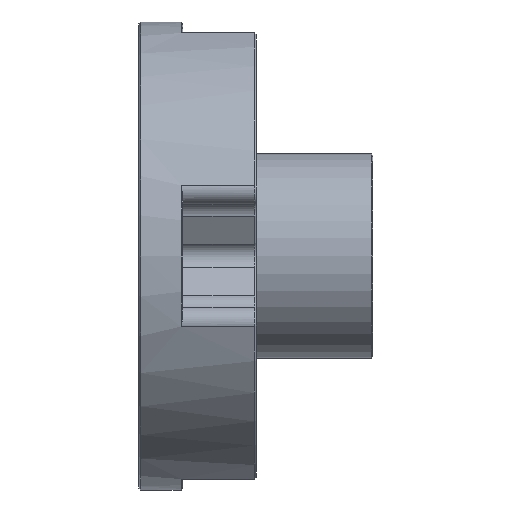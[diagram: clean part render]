
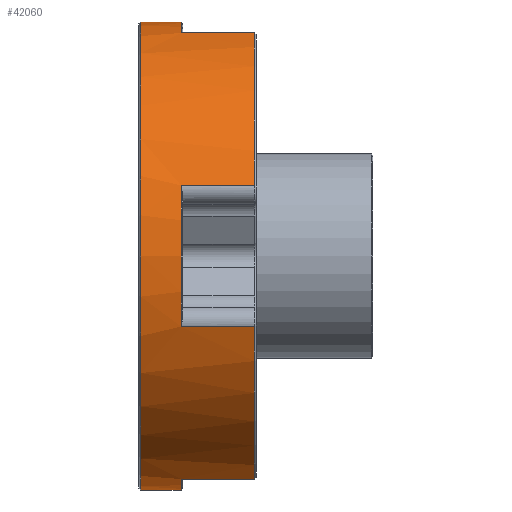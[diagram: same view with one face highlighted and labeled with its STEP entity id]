
A CAD part, left-side view. The second image highlights one B-rep face of the part: STEP entity #42060.
In plain terms, the highlighted cylindrical face has radius 16 mm (diameter 32 mm), a partial arc.
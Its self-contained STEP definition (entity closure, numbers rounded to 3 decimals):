
#930 = VECTOR ( 'NONE', #20826, 1000. ) ;
#1009 = DIRECTION ( 'NONE',  ( 0., -1., 0. ) ) ;
#1766 = DIRECTION ( 'NONE',  ( 0., -1., 0. ) ) ;
#1793 = EDGE_CURVE ( 'NONE', #15238, #35212, #44375, .T. ) ;
#3081 = DIRECTION ( 'NONE',  ( 0., -1., 0. ) ) ;
#4927 = VERTEX_POINT ( 'NONE', #35530 ) ;
#6414 = CARTESIAN_POINT ( 'NONE',  ( -15.255, 20.99, 4.827 ) ) ;
#7354 = CARTESIAN_POINT ( 'NONE',  ( 0., 8., -16. ) ) ;
#7944 = VERTEX_POINT ( 'NONE', #74116 ) ;
#8100 = DIRECTION ( 'NONE',  ( 0., 0., 1. ) ) ;
#9535 = ORIENTED_EDGE ( 'NONE', *, *, #47835, .T. ) ;
#10298 = DIRECTION ( 'NONE',  ( 0., 1., 0. ) ) ;
#10840 = CARTESIAN_POINT ( 'NONE',  ( 0., 7.875, 16. ) ) ;
#10989 = CIRCLE ( 'NONE', #52570, 16. ) ;
#11413 = VERTEX_POINT ( 'NONE', #31182 ) ;
#12600 = EDGE_LOOP ( 'NONE', ( #60551, #36033, #68315, #21662, #22065, #19429, #54100, #65936, #9535, #31345, #45018, #24198 ) ) ;
#13074 = LINE ( 'NONE', #73501, #48318 ) ;
#13438 = EDGE_CURVE ( 'NONE', #69668, #40917, #33314, .T. ) ;
#13907 = EDGE_CURVE ( 'NONE', #20694, #40917, #66782, .T. ) ;
#14190 = CARTESIAN_POINT ( 'NONE',  ( 0., 5.125, 0. ) ) ;
#14689 = DIRECTION ( 'NONE',  ( 0., 1., 0. ) ) ;
#15238 = VERTEX_POINT ( 'NONE', #10840 ) ;
#16117 = VECTOR ( 'NONE', #1766, 1000. ) ;
#19429 = ORIENTED_EDGE ( 'NONE', *, *, #13438, .T. ) ;
#20501 = CARTESIAN_POINT ( 'NONE',  ( -4.827, 20.99, -15.255 ) ) ;
#20694 = VERTEX_POINT ( 'NONE', #62058 ) ;
#20826 = DIRECTION ( 'NONE',  ( 0., -1., 0. ) ) ;
#21430 = VERTEX_POINT ( 'NONE', #57492 ) ;
#21662 = ORIENTED_EDGE ( 'NONE', *, *, #53638, .T. ) ;
#22065 = ORIENTED_EDGE ( 'NONE', *, *, #25766, .T. ) ;
#22157 = CARTESIAN_POINT ( 'NONE',  ( 0., 5.125, 0. ) ) ;
#24198 = ORIENTED_EDGE ( 'NONE', *, *, #59237, .T. ) ;
#24810 = CIRCLE ( 'NONE', #52972, 16. ) ;
#25456 = EDGE_CURVE ( 'NONE', #72953, #21430, #13074, .T. ) ;
#25698 = VERTEX_POINT ( 'NONE', #25828 ) ;
#25766 = EDGE_CURVE ( 'NONE', #4927, #69668, #66486, .T. ) ;
#25828 = CARTESIAN_POINT ( 'NONE',  ( 0., 7.875, -16. ) ) ;
#25985 = CARTESIAN_POINT ( 'NONE',  ( -4.827, 0.125, -15.255 ) ) ;
#26323 = CARTESIAN_POINT ( 'NONE',  ( 0., 5.125, 0. ) ) ;
#27003 = EDGE_CURVE ( 'NONE', #15238, #25698, #24810, .T. ) ;
#29830 = CARTESIAN_POINT ( 'NONE',  ( 0., 7.875, 0. ) ) ;
#30362 = DIRECTION ( 'NONE',  ( 0., -1., 0. ) ) ;
#31182 = CARTESIAN_POINT ( 'NONE',  ( -15.255, 0.125, 4.827 ) ) ;
#31345 = ORIENTED_EDGE ( 'NONE', *, *, #72440, .T. ) ;
#31882 = CIRCLE ( 'NONE', #60083, 16. ) ;
#31998 = DIRECTION ( 'NONE',  ( 0., -1., 0. ) ) ;
#32299 = CARTESIAN_POINT ( 'NONE',  ( -4.827, 5.125, 15.255 ) ) ;
#33314 = CIRCLE ( 'NONE', #46985, 16. ) ;
#33639 = EDGE_CURVE ( 'NONE', #25698, #7944, #54497, .T. ) ;
#35212 = VERTEX_POINT ( 'NONE', #58634 ) ;
#35530 = CARTESIAN_POINT ( 'NONE',  ( -4.827, 5.125, -15.255 ) ) ;
#35720 = AXIS2_PLACEMENT_3D ( 'NONE', #71984, #31998, #72486 ) ;
#35862 = FACE_OUTER_BOUND ( 'NONE', #12600, .T. ) ;
#36033 = ORIENTED_EDGE ( 'NONE', *, *, #27003, .T. ) ;
#39135 = VECTOR ( 'NONE', #30362, 1000. ) ;
#39920 = CARTESIAN_POINT ( 'NONE',  ( -15.255, 5.125, 4.827 ) ) ;
#40917 = VERTEX_POINT ( 'NONE', #58608 ) ;
#42060 = ADVANCED_FACE ( 'NONE', ( #35862 ), #64840, .T. ) ;
#42219 = CARTESIAN_POINT ( 'NONE',  ( -15.255, 20.99, -4.827 ) ) ;
#44121 = DIRECTION ( 'NONE',  ( 0., -1., 0. ) ) ;
#44375 = LINE ( 'NONE', #55504, #930 ) ;
#44928 = DIRECTION ( 'NONE',  ( 0., 0., 1. ) ) ;
#45018 = ORIENTED_EDGE ( 'NONE', *, *, #25456, .F. ) ;
#46985 = AXIS2_PLACEMENT_3D ( 'NONE', #59953, #48813, #8100 ) ;
#47236 = AXIS2_PLACEMENT_3D ( 'NONE', #26323, #66321, #72646 ) ;
#47282 = DIRECTION ( 'NONE',  ( 0., 0., 1. ) ) ;
#47835 = EDGE_CURVE ( 'NONE', #70256, #11413, #53783, .T. ) ;
#48318 = VECTOR ( 'NONE', #44121, 1000. ) ;
#48480 = DIRECTION ( 'NONE',  ( 0., 0., 1. ) ) ;
#48813 = DIRECTION ( 'NONE',  ( 0., 1., 0. ) ) ;
#51096 = VECTOR ( 'NONE', #3081, 1000. ) ;
#52179 = DIRECTION ( 'NONE',  ( 0., -1., 0. ) ) ;
#52570 = AXIS2_PLACEMENT_3D ( 'NONE', #14190, #14689, #66539 ) ;
#52972 = AXIS2_PLACEMENT_3D ( 'NONE', #29830, #1009, #47282 ) ;
#53638 = EDGE_CURVE ( 'NONE', #7944, #4927, #31882, .T. ) ;
#53783 = LINE ( 'NONE', #6414, #55603 ) ;
#54100 = ORIENTED_EDGE ( 'NONE', *, *, #13907, .F. ) ;
#54497 = LINE ( 'NONE', #7354, #39135 ) ;
#55038 = CIRCLE ( 'NONE', #71991, 16. ) ;
#55504 = CARTESIAN_POINT ( 'NONE',  ( 0., 8., 16. ) ) ;
#55603 = VECTOR ( 'NONE', #52179, 1000. ) ;
#57492 = CARTESIAN_POINT ( 'NONE',  ( -4.827, 0.125, 15.255 ) ) ;
#57522 = EDGE_CURVE ( 'NONE', #20694, #70256, #10989, .T. ) ;
#58608 = CARTESIAN_POINT ( 'NONE',  ( -15.255, 0.125, -4.827 ) ) ;
#58634 = CARTESIAN_POINT ( 'NONE',  ( 0., 5.125, 16. ) ) ;
#59237 = EDGE_CURVE ( 'NONE', #72953, #35212, #61641, .T. ) ;
#59953 = CARTESIAN_POINT ( 'NONE',  ( 0., 0.125, 0. ) ) ;
#60083 = AXIS2_PLACEMENT_3D ( 'NONE', #22157, #10298, #44928 ) ;
#60129 = DIRECTION ( 'NONE',  ( 0., 1., 0. ) ) ;
#60551 = ORIENTED_EDGE ( 'NONE', *, *, #1793, .F. ) ;
#61641 = CIRCLE ( 'NONE', #47236, 16. ) ;
#62058 = CARTESIAN_POINT ( 'NONE',  ( -15.255, 5.125, -4.827 ) ) ;
#64840 = CYLINDRICAL_SURFACE ( 'NONE', #35720, 16. ) ;
#65936 = ORIENTED_EDGE ( 'NONE', *, *, #57522, .T. ) ;
#66321 = DIRECTION ( 'NONE',  ( 0., 1., 0. ) ) ;
#66486 = LINE ( 'NONE', #20501, #51096 ) ;
#66539 = DIRECTION ( 'NONE',  ( 0., 0., 1. ) ) ;
#66782 = LINE ( 'NONE', #42219, #16117 ) ;
#68315 = ORIENTED_EDGE ( 'NONE', *, *, #33639, .T. ) ;
#69668 = VERTEX_POINT ( 'NONE', #25985 ) ;
#70256 = VERTEX_POINT ( 'NONE', #39920 ) ;
#71984 = CARTESIAN_POINT ( 'NONE',  ( 0., 8., 0. ) ) ;
#71991 = AXIS2_PLACEMENT_3D ( 'NONE', #72291, #60129, #48480 ) ;
#72291 = CARTESIAN_POINT ( 'NONE',  ( 0., 0.125, 0. ) ) ;
#72440 = EDGE_CURVE ( 'NONE', #11413, #21430, #55038, .T. ) ;
#72486 = DIRECTION ( 'NONE',  ( 0., 0., -1. ) ) ;
#72646 = DIRECTION ( 'NONE',  ( 0., 0., 1. ) ) ;
#72953 = VERTEX_POINT ( 'NONE', #32299 ) ;
#73501 = CARTESIAN_POINT ( 'NONE',  ( -4.827, 20.99, 15.255 ) ) ;
#74116 = CARTESIAN_POINT ( 'NONE',  ( 0., 5.125, -16. ) ) ;
